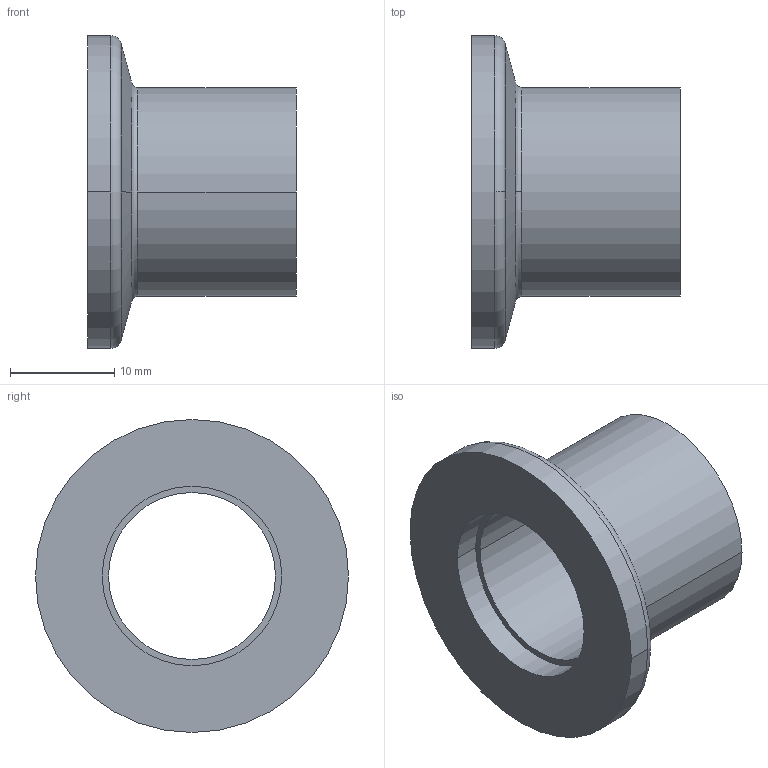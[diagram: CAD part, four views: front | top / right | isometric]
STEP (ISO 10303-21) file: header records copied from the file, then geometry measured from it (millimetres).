
FILE_DESCRIPTION((''),'2;1');
FILE_NAME('W:\211-202.stp','2003-10-09T09:55:13',('KAA'),(''),'Autodesk Inventor (R) 6.0','Autodesk Inventor (R) 6.0','');
FILE_SCHEMA(('CONFIG_CONTROL_DESIGN'));
Length unit declared in the file: millimetre
Products named in the file (1): 211-202
Bounding box: 20 x 30 x 30 mm (x, y, z)
Volume: 3599.4 mm3; surface area: 3276.9 mm2
Topology: 1 solids, 1 shells, 17 faces, 42 edges, 28 vertices
Faces by surface type: cylinder 8, plane 3, torus 2, cone 2, bspline 2
Entity records: 707 total; most frequent: CARTESIAN_POINT 176, DIRECTION 106, ORIENTED_EDGE 84, AXIS2_PLACEMENT_3D 48, EDGE_CURVE 42, CIRCLE 32, VERTEX_POINT 28, EDGE_LOOP 20
